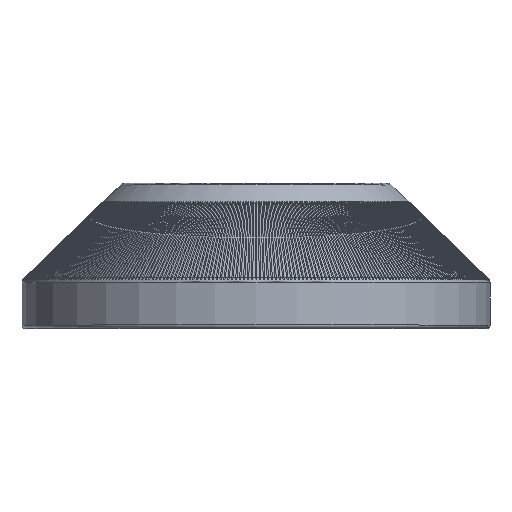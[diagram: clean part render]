
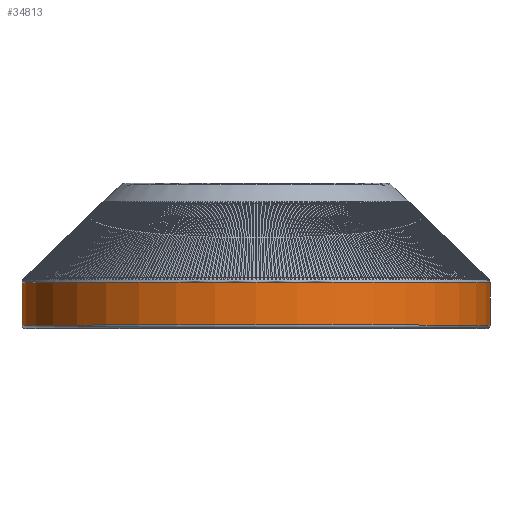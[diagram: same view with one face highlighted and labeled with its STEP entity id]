
A CAD part, top view. The second image highlights one B-rep face of the part: STEP entity #34813.
In plain terms, the highlighted cylindrical face has radius 7.25 mm (diameter 14.5 mm), a full revolution.
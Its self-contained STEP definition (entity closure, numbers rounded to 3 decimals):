
#4243=FACE_OUTER_BOUND('',#6183,.T.);
#6183=EDGE_LOOP('',(#32488,#32489,#32490,#32491));
#6380=CIRCLE('',#35033,7.25);
#8058=CIRCLE('',#37118,7.25);
#11223=LINE('',#144505,#11330);
#11330=VECTOR('',#41812,7.25);
#11914=VERTEX_POINT('',#47793);
#15177=VERTEX_POINT('',#144501);
#15769=EDGE_CURVE('',#11914,#11914,#6380,.T.);
#20948=EDGE_CURVE('',#15177,#15177,#8058,.T.);
#20950=EDGE_CURVE('',#11914,#15177,#11223,.T.);
#32488=ORIENTED_EDGE('',*,*,#15769,.F.);
#32489=ORIENTED_EDGE('',*,*,#20950,.T.);
#32490=ORIENTED_EDGE('',*,*,#20948,.F.);
#32491=ORIENTED_EDGE('',*,*,#20950,.F.);
#32881=CYLINDRICAL_SURFACE('',#37120,7.25);
#34813=ADVANCED_FACE('',(#4243),#32881,.T.);
#35033=AXIS2_PLACEMENT_3D('',#47795,#37537,#37538);
#37118=AXIS2_PLACEMENT_3D('',#144502,#41806,#41807);
#37120=AXIS2_PLACEMENT_3D('',#144504,#41810,#41811);
#37537=DIRECTION('center_axis',(0.,1.,0.));
#37538=DIRECTION('ref_axis',(0.,0.,
-1.));
#41806=DIRECTION('center_axis',(0.,-1.,0.));
#41807=DIRECTION('ref_axis',(0.,0.,
-1.));
#41810=DIRECTION('center_axis',(0.,1.,0.));
#41811=DIRECTION('ref_axis',(0.,0.,1.));
#41812=DIRECTION('',(0.,-1.,0.));
#47793=CARTESIAN_POINT('',(0.,1.415,-7.25));
#47795=CARTESIAN_POINT('Origin',(0.,1.415,0.));
#144501=CARTESIAN_POINT('',(0.,0.1,-7.25));
#144502=CARTESIAN_POINT('Origin',(0.,0.1,0.));
#144504=CARTESIAN_POINT('Origin',(0.,0.75,0.));
#144505=CARTESIAN_POINT('',(0.,0.75,-7.25));
